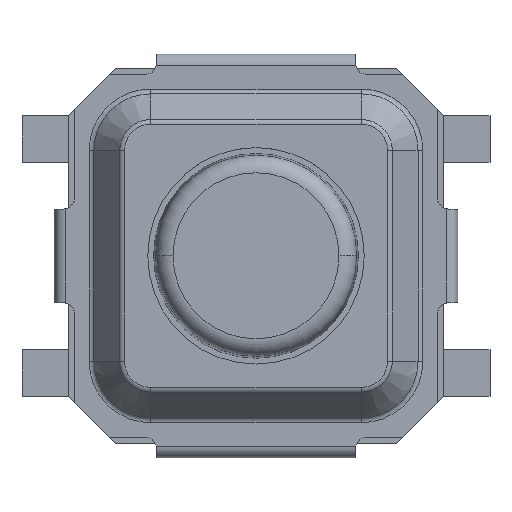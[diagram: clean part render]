
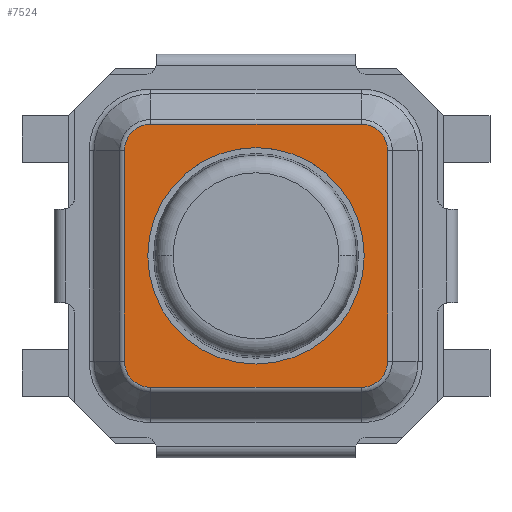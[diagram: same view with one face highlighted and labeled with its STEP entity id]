
A CAD part, top view. The second image highlights one B-rep face of the part: STEP entity #7524.
In plain terms, the highlighted planar face has unit normal (0, 0, 1).
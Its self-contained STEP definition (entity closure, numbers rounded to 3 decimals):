
#1366=CARTESIAN_POINT('',(-0.9,0.9,1.2));
#1367=DIRECTION('',(0.,0.,-1.));
#1368=DIRECTION('',(-1.,0.,0.));
#1369=AXIS2_PLACEMENT_3D('',#1366,#1367,#1368);
#1374=CARTESIAN_POINT('',(0.9,0.9,1.2));
#1375=DIRECTION('',(0.,0.,-1.));
#1376=DIRECTION('',(0.,1.,0.));
#1377=AXIS2_PLACEMENT_3D('',#1374,#1375,#1376);
#1382=CARTESIAN_POINT('',(0.9,-0.9,1.2));
#1383=DIRECTION('',(0.,0.,-1.));
#1384=DIRECTION('',(1.,0.,0.));
#1385=AXIS2_PLACEMENT_3D('',#1382,#1383,#1384);
#1390=CARTESIAN_POINT('',(-0.9,-0.9,1.2));
#1391=DIRECTION('',(0.,0.,-1.));
#1392=DIRECTION('',(0.,-1.,0.));
#1393=AXIS2_PLACEMENT_3D('',#1390,#1391,#1392);
#1398=CARTESIAN_POINT('',(0.,0.,1.2));
#1399=DIRECTION('',(0.,0.,1.));
#1400=DIRECTION('',(-1.,0.,0.));
#1401=AXIS2_PLACEMENT_3D('',#1398,#1399,#1400);
#1406=CARTESIAN_POINT('',(0.,0.,1.2));
#1407=DIRECTION('',(0.,0.,1.));
#1408=DIRECTION('',(1.,0.,0.));
#1409=AXIS2_PLACEMENT_3D('',#1406,#1407,#1408);
#1459=DIRECTION('',(-1.,0.,0.));
#1460=VECTOR('',#1459,1.8);
#1461=CARTESIAN_POINT('',(0.9,1.124,1.2));
#1462=LINE('',#1461,#1460);
#1497=DIRECTION('',(0.,1.,0.));
#1498=VECTOR('',#1497,1.8);
#1499=CARTESIAN_POINT('',(1.124,-0.9,1.2));
#1500=LINE('',#1499,#1498);
#1528=DIRECTION('',(1.,0.,0.));
#1529=VECTOR('',#1528,1.8);
#1530=CARTESIAN_POINT('',(-0.9,-1.124,1.2));
#1531=LINE('',#1530,#1529);
#1542=DIRECTION('',(0.,-1.,0.));
#1543=VECTOR('',#1542,1.8);
#1544=CARTESIAN_POINT('',(-1.124,0.9,1.2));
#1545=LINE('',#1544,#1543);
#5218=CARTESIAN_POINT('',(-0.9,-1.124,1.2));
#5219=CARTESIAN_POINT('',(-1.124,-0.9,1.2));
#5220=VERTEX_POINT('',#5218);
#5221=VERTEX_POINT('',#5219);
#5222=CARTESIAN_POINT('',(-1.124,0.9,1.2));
#5223=CARTESIAN_POINT('',(-0.9,1.124,1.2));
#5224=VERTEX_POINT('',#5222);
#5225=VERTEX_POINT('',#5223);
#5226=CARTESIAN_POINT('',(0.9,1.124,1.2));
#5227=VERTEX_POINT('',#5226);
#5228=CARTESIAN_POINT('',(1.124,0.9,1.2));
#5229=VERTEX_POINT('',#5228);
#5230=CARTESIAN_POINT('',(1.124,-0.9,1.2));
#5231=VERTEX_POINT('',#5230);
#5232=CARTESIAN_POINT('',(0.9,-1.124,1.2));
#5233=VERTEX_POINT('',#5232);
#5234=CARTESIAN_POINT('',(-0.925,0.,1.2));
#5235=CARTESIAN_POINT('',(0.925,0.,1.2));
#5236=VERTEX_POINT('',#5234);
#5237=VERTEX_POINT('',#5235);
#7496=CARTESIAN_POINT('',(0.,0.,1.2));
#7497=DIRECTION('',(0.,0.,1.));
#7498=DIRECTION('',(1.,0.,0.));
#7499=AXIS2_PLACEMENT_3D('',#7496,#7497,#7498);
#7500=PLANE('',#7499);
#7502=ORIENTED_EDGE('',*,*,#7501,.T.);
#7504=ORIENTED_EDGE('',*,*,#7503,.F.);
#7506=ORIENTED_EDGE('',*,*,#7505,.T.);
#7508=ORIENTED_EDGE('',*,*,#7507,.F.);
#7510=ORIENTED_EDGE('',*,*,#7509,.T.);
#7512=ORIENTED_EDGE('',*,*,#7511,.F.);
#7513=ORIENTED_EDGE('',*,*,#7474,.T.);
#7515=ORIENTED_EDGE('',*,*,#7514,.F.);
#7516=EDGE_LOOP('',(#7502,#7504,#7506,#7508,#7510,#7512,#7513,#7515));
#7517=FACE_OUTER_BOUND('',#7516,.F.);
#7519=ORIENTED_EDGE('',*,*,#7518,.T.);
#7521=ORIENTED_EDGE('',*,*,#7520,.T.);
#7522=EDGE_LOOP('',(#7519,#7521));
#7523=FACE_BOUND('',#7522,.F.);
#1370=CIRCLE('',#1369,0.224);
#1378=CIRCLE('',#1377,0.224);
#1386=CIRCLE('',#1385,0.224);
#1394=CIRCLE('',#1393,0.224);
#1402=CIRCLE('',#1401,0.925);
#1410=CIRCLE('',#1409,0.925);
#7474=EDGE_CURVE('',#5220,#5221,#1394,.T.);
#7501=EDGE_CURVE('',#5224,#5225,#1370,.T.);
#7503=EDGE_CURVE('',#5227,#5225,#1462,.T.);
#7505=EDGE_CURVE('',#5227,#5229,#1378,.T.);
#7507=EDGE_CURVE('',#5231,#5229,#1500,.T.);
#7509=EDGE_CURVE('',#5231,#5233,#1386,.T.);
#7511=EDGE_CURVE('',#5220,#5233,#1531,.T.);
#7514=EDGE_CURVE('',#5224,#5221,#1545,.T.);
#7518=EDGE_CURVE('',#5236,#5237,#1402,.T.);
#7520=EDGE_CURVE('',#5237,#5236,#1410,.T.);
#7524=ADVANCED_FACE('',(#7517,#7523),#7500,.T.);
